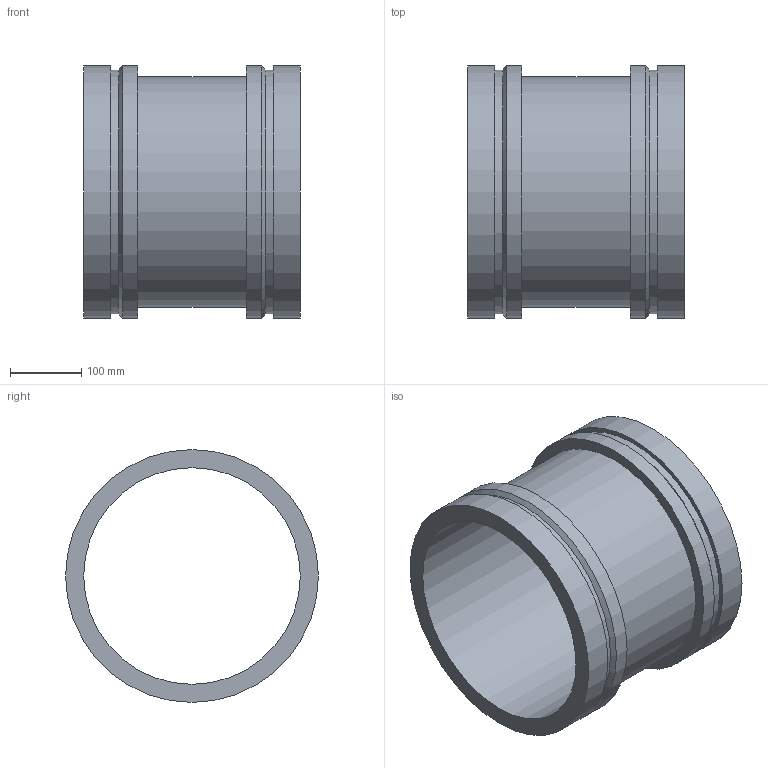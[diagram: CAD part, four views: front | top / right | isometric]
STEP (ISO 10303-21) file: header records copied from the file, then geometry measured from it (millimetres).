
FILE_DESCRIPTION(/* description */ ('VIC ADAPTER NIPPLE No W43 VR','CAx-IF Rec.Pracs.---Representation and Presentation of Product Manufacturing Information (PMI)---4.0---2014-10-13'),/* implementation_level */ '2;1');
FILE_NAME(/* name */ 'C:\Users\kkamble\AppData\Roaming\Autodesk\ApplicationPlugins\Back Up\Victaulic_Vic-Ring_Adapter Nipple_No W43 VR (AGR)\Victaulic_Vic-Ring_Adapter Nipple_No W43 VR (AGR)_12 (300).stp',/* time_stamp */ '2020-09-10T11:30:56+05:00',/* author */ ('cps_temp'),/* organization */ ('Victaulic'),/* preprocessor_version */ 'ST-DEVELOPER v17.2',/* originating_system */ 'Autodesk Inventor 2019',/* authorisation */ '');
FILE_SCHEMA (('AP242_MANAGED_MODEL_BASED_3D_ENGINEERING_MIM_LF { 1 0 10303 442 1 1 4 }'));
Length unit declared in the file: inch
Products named in the file (1): W43 VR-12.0
Bounding box: 304.8 x 355.6 x 355.6 mm (x, y, z)
Volume: 5250604 mm3; surface area: 723050.8 mm2
Topology: 1 solids, 1 shells, 16 faces, 42 edges, 32 vertices
Faces by surface type: cylinder 8, plane 6, cone 2
Full cylindrical faces by diameter (mm): 304.8 x1, 323.85 x1, 342.9 x2, 355.6 x4
Entity records: 686 total; most frequent: DIRECTION 134, CARTESIAN_POINT 108, ORIENTED_EDGE 84, AXIS2_PLACEMENT_3D 62, EDGE_CURVE 42, CIRCLE 32, VERTEX_POINT 32, EDGE_LOOP 22
